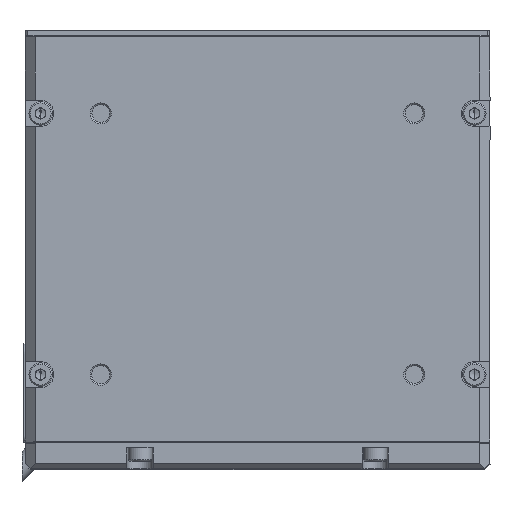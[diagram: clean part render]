
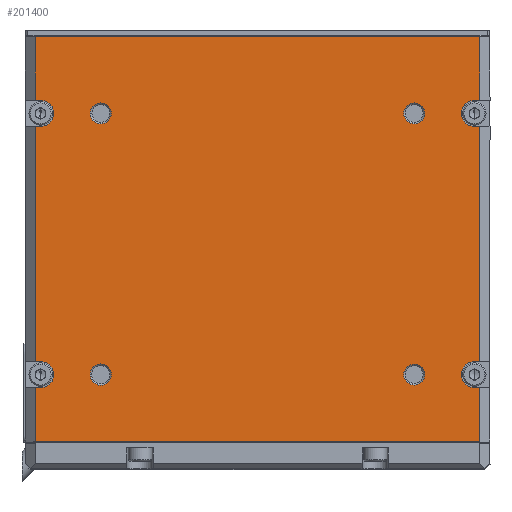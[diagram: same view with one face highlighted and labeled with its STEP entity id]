
A CAD part, top view. The second image highlights one B-rep face of the part: STEP entity #201400.
In plain terms, the highlighted planar face has unit normal (0, 0, 1).
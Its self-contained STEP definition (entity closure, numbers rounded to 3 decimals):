
#198270=CARTESIAN_POINT('',(76.747,43.15,93.5));
#198280=VERTEX_POINT('',#198270);
#198650=CARTESIAN_POINT('',(76.75,32.75,93.5));
#198660=VERTEX_POINT('',#198650);
#198690=CARTESIAN_POINT('',(76.75,43.15,93.5));
#198700=DIRECTION('',(0.,-1.,0.));
#198710=VECTOR('',#198700,1.);
#198720=LINE('',#198690,#198710);
#198730=EDGE_CURVE('',#198280,#198660,#198720,.T.);
#199050=CARTESIAN_POINT('',(75.75,32.75,93.5));
#199060=VERTEX_POINT('',#199050);
#199090=CARTESIAN_POINT('',(76.75,32.75,93.5));
#199100=DIRECTION('',(-1.,0.,0.));
#199110=VECTOR('',#199100,1.);
#199120=LINE('',#199090,#199110);
#199130=EDGE_CURVE('',#198660,#199060,#199120,.T.);
#199250=CARTESIAN_POINT('',(-4.25,-34.95,93.5));
#199260=DIRECTION('',(0.,0.,1.));
#199270=DIRECTION('',(0.,1.,0.));
#199280=AXIS2_PLACEMENT_3D('',#199250,#199260,#199270);
#199290=PLANE('',#199280);
#199300=ORIENTED_EDGE('',*,*,#198730,.F.);
#199310=ORIENTED_EDGE('',*,*,#199130,.F.);
#199320=CARTESIAN_POINT('',(75.75,30.25,93.5));
#199330=DIRECTION('',(-0.,-0.,-1.));
#199340=DIRECTION('',(0.,-1.,0.));
#199350=AXIS2_PLACEMENT_3D('',#199320,#199330,#199340);
#199360=CIRCLE('',#199350,2.5);
#199370=CARTESIAN_POINT('',(75.75,27.75,93.5));
#199380=VERTEX_POINT('',#199370);
#199390=EDGE_CURVE('',#199380,#199060,#199360,.T.);
#199400=ORIENTED_EDGE('',*,*,#199390,.T.);
#199410=CARTESIAN_POINT('',(75.75,27.75,93.5));
#199420=DIRECTION('',(1.,0.,0.));
#199430=VECTOR('',#199420,1.);
#199440=LINE('',#199410,#199430);
#199450=CARTESIAN_POINT('',(76.75,27.75,93.5));
#199460=VERTEX_POINT('',#199450);
#199470=EDGE_CURVE('',#199380,#199460,#199440,.T.);
#199480=ORIENTED_EDGE('',*,*,#199470,.F.);
#199490=CARTESIAN_POINT('',(76.75,27.75,93.5));
#199500=DIRECTION('',(0.,-1.,0.));
#199510=VECTOR('',#199500,1.);
#199520=LINE('',#199490,#199510);
#199530=CARTESIAN_POINT('',(76.75,-17.25,93.5));
#199540=VERTEX_POINT('',#199530);
#199550=EDGE_CURVE('',#199460,#199540,#199520,.T.);
#199560=ORIENTED_EDGE('',*,*,#199550,.F.);
#199570=CARTESIAN_POINT('',(76.75,-17.25,93.5));
#199580=DIRECTION('',(-1.,0.,0.));
#199590=VECTOR('',#199580,1.);
#199600=LINE('',#199570,#199590);
#199610=CARTESIAN_POINT('',(75.75,-17.25,93.5));
#199620=VERTEX_POINT('',#199610);
#199630=EDGE_CURVE('',#199540,#199620,#199600,.T.);
#199640=ORIENTED_EDGE('',*,*,#199630,.F.);
#199650=CARTESIAN_POINT('',(75.75,-19.75,93.5));
#199660=DIRECTION('',(-0.,-0.,-1.));
#199670=DIRECTION('',(0.,-1.,0.));
#199680=AXIS2_PLACEMENT_3D('',#199650,#199660,#199670);
#199690=CIRCLE('',#199680,2.5);
#199700=CARTESIAN_POINT('',(75.75,-22.25,93.5));
#199710=VERTEX_POINT('',#199700);
#199720=EDGE_CURVE('',#199710,#199620,#199690,.T.);
#199730=ORIENTED_EDGE('',*,*,#199720,.T.);
#199740=CARTESIAN_POINT('',(75.75,-22.25,93.5));
#199750=DIRECTION('',(1.,0.,0.));
#199760=VECTOR('',#199750,1.);
#199770=LINE('',#199740,#199760);
#199780=CARTESIAN_POINT('',(76.75,-22.25,93.5));
#199790=VERTEX_POINT('',#199780);
#199800=EDGE_CURVE('',#199710,#199790,#199770,.T.);
#199810=ORIENTED_EDGE('',*,*,#199800,.F.);
#199820=CARTESIAN_POINT('',(76.75,-22.25,93.5));
#199830=DIRECTION('',(0.,-1.,0.));
#199840=VECTOR('',#199830,1.);
#199850=LINE('',#199820,#199840);
#199860=CARTESIAN_POINT('',(76.75,-34.45,93.5));
#199870=VERTEX_POINT('',#199860);
#199880=EDGE_CURVE('',#199790,#199870,#199850,.T.);
#199890=ORIENTED_EDGE('',*,*,#199880,.F.);
#199900=CARTESIAN_POINT('',(76.75,-34.45,93.5));
#199910=DIRECTION('',(-1.,0.,0.));
#199920=VECTOR('',#199910,1.);
#199930=LINE('',#199900,#199920);
#199940=CARTESIAN_POINT('',(-8.25,-34.45,93.5));
#199950=VERTEX_POINT('',#199940);
#199960=EDGE_CURVE('',#199870,#199950,#199930,.T.);
#199970=ORIENTED_EDGE('',*,*,#199960,.F.);
#199980=CARTESIAN_POINT('',(-8.25,-34.45,93.5));
#199990=DIRECTION('',(0.,1.,0.));
#200000=VECTOR('',#199990,1.);
#200010=LINE('',#199980,#200000);
#200020=CARTESIAN_POINT('',(-8.25,-22.25,93.5));
#200030=VERTEX_POINT('',#200020);
#200040=EDGE_CURVE('',#199950,#200030,#200010,.T.);
#200050=ORIENTED_EDGE('',*,*,#200040,.F.);
#200060=CARTESIAN_POINT('',(-8.25,-22.25,93.5));
#200070=DIRECTION('',(1.,0.,0.));
#200080=VECTOR('',#200070,1.);
#200090=LINE('',#200060,#200080);
#200100=CARTESIAN_POINT('',(-7.25,-22.25,93.5));
#200110=VERTEX_POINT('',#200100);
#200120=EDGE_CURVE('',#200030,#200110,#200090,.T.);
#200130=ORIENTED_EDGE('',*,*,#200120,.F.);
#200140=CARTESIAN_POINT('',(-7.25,-19.75,93.5));
#200150=DIRECTION('',(0.,0.,-1.));
#200160=DIRECTION('',(0.,1.,0.));
#200170=AXIS2_PLACEMENT_3D('',#200140,#200150,#200160);
#200180=CIRCLE('',#200170,2.5);
#200190=CARTESIAN_POINT('',(-7.25,-17.25,93.5));
#200200=VERTEX_POINT('',#200190);
#200210=EDGE_CURVE('',#200200,#200110,#200180,.T.);
#200220=ORIENTED_EDGE('',*,*,#200210,.T.);
#200230=CARTESIAN_POINT('',(-7.25,-17.25,93.5));
#200240=DIRECTION('',(-1.,0.,0.));
#200250=VECTOR('',#200240,1.);
#200260=LINE('',#200230,#200250);
#200270=CARTESIAN_POINT('',(-8.25,-17.25,93.5));
#200280=VERTEX_POINT('',#200270);
#200290=EDGE_CURVE('',#200200,#200280,#200260,.T.);
#200300=ORIENTED_EDGE('',*,*,#200290,.F.);
#200310=CARTESIAN_POINT('',(-8.25,-17.25,93.5));
#200320=DIRECTION('',(0.,1.,0.));
#200330=VECTOR('',#200320,1.);
#200340=LINE('',#200310,#200330);
#200350=CARTESIAN_POINT('',(-8.25,27.75,93.5));
#200360=VERTEX_POINT('',#200350);
#200370=EDGE_CURVE('',#200280,#200360,#200340,.T.);
#200380=ORIENTED_EDGE('',*,*,#200370,.F.);
#200390=CARTESIAN_POINT('',(-8.25,27.75,93.5));
#200400=DIRECTION('',(1.,0.,0.));
#200410=VECTOR('',#200400,1.);
#200420=LINE('',#200390,#200410);
#200430=CARTESIAN_POINT('',(-7.25,27.75,93.5));
#200440=VERTEX_POINT('',#200430);
#200450=EDGE_CURVE('',#200360,#200440,#200420,.T.);
#200460=ORIENTED_EDGE('',*,*,#200450,.F.);
#200470=CARTESIAN_POINT('',(-7.25,30.25,93.5));
#200480=DIRECTION('',(0.,0.,-1.));
#200490=DIRECTION('',(0.,1.,0.));
#200500=AXIS2_PLACEMENT_3D('',#200470,#200480,#200490);
#200510=CIRCLE('',#200500,2.5);
#200520=CARTESIAN_POINT('',(-7.25,32.75,93.5));
#200530=VERTEX_POINT('',#200520);
#200540=EDGE_CURVE('',#200530,#200440,#200510,.T.);
#200550=ORIENTED_EDGE('',*,*,#200540,.T.);
#200560=CARTESIAN_POINT('',(-7.25,32.75,93.5));
#200570=DIRECTION('',(-1.,0.,0.));
#200580=VECTOR('',#200570,1.);
#200590=LINE('',#200560,#200580);
#200600=CARTESIAN_POINT('',(-8.25,32.75,93.5));
#200610=VERTEX_POINT('',#200600);
#200620=EDGE_CURVE('',#200530,#200610,#200590,.T.);
#200630=ORIENTED_EDGE('',*,*,#200620,.F.);
#200640=CARTESIAN_POINT('',(-8.25,32.75,93.5));
#200650=DIRECTION('',(0.,1.,0.));
#200660=VECTOR('',#200650,1.);
#200670=LINE('',#200640,#200660);
#200680=CARTESIAN_POINT('',(-8.25,43.151,
93.499));
#200690=VERTEX_POINT('',#200680);
#200700=EDGE_CURVE('',#200610,#200690,#200670,.T.);
#200710=ORIENTED_EDGE('',*,*,#200700,.F.);
#200720=CARTESIAN_POINT('',(76.75,43.15,93.5));
#200730=DIRECTION('',(-1.,0.,0.));
#200740=VECTOR('',#200730,1.);
#200750=LINE('',#200720,#200740);
#200760=EDGE_CURVE('',#198280,#200690,#200750,.T.);
#200770=ORIENTED_EDGE('',*,*,#200760,.T.);
#200780=EDGE_LOOP('',(#200770,#200710,#200630,#200550,#200460,#200380,
#200300,#200220,#200130,#200050,#199970,#199890,#199810,#199730,#199640,
#199560,#199480,#199400,#199310,#199300));
#200790=FACE_OUTER_BOUND('',#200780,.T.);
#200800=CARTESIAN_POINT('',(64.25,-19.75,93.5));
#200810=DIRECTION('',(-0.,0.,-1.));
#200820=DIRECTION('',(-1.,0.,0.));
#200830=AXIS2_PLACEMENT_3D('',#200800,#200810,#200820);
#200840=CIRCLE('',#200830,2.);
#200850=CARTESIAN_POINT('',(66.25,-19.75,93.5));
#200860=VERTEX_POINT('',#200850);
#200870=CARTESIAN_POINT('',(62.25,-19.75,93.5));
#200880=VERTEX_POINT('',#200870);
#200890=EDGE_CURVE('',#200860,#200880,#200840,.T.);
#200900=ORIENTED_EDGE('',*,*,#200890,.T.);
#200910=EDGE_CURVE('',#200880,#200860,#200840,.T.);
#200920=ORIENTED_EDGE('',*,*,#200910,.T.);
#200930=EDGE_LOOP('',(#200920,#200900));
#200940=FACE_BOUND('',#200930,.T.);
#200950=CARTESIAN_POINT('',(4.25,30.25,93.5));
#200960=DIRECTION('',(-0.,0.,-1.));
#200970=DIRECTION('',(-1.,0.,0.));
#200980=AXIS2_PLACEMENT_3D('',#200950,#200960,#200970);
#200990=CIRCLE('',#200980,2.);
#201000=CARTESIAN_POINT('',(6.25,30.25,93.5));
#201010=VERTEX_POINT('',#201000);
#201020=CARTESIAN_POINT('',(2.25,30.25,93.5));
#201030=VERTEX_POINT('',#201020);
#201040=EDGE_CURVE('',#201010,#201030,#200990,.T.);
#201050=ORIENTED_EDGE('',*,*,#201040,.T.);
#201060=EDGE_CURVE('',#201030,#201010,#200990,.T.);
#201070=ORIENTED_EDGE('',*,*,#201060,.T.);
#201080=EDGE_LOOP('',(#201070,#201050));
#201090=FACE_BOUND('',#201080,.T.);
#201100=CARTESIAN_POINT('',(64.25,30.25,93.5));
#201110=DIRECTION('',(-0.,0.,-1.));
#201120=DIRECTION('',(-1.,0.,0.));
#201130=AXIS2_PLACEMENT_3D('',#201100,#201110,#201120);
#201140=CIRCLE('',#201130,2.03);
#201150=CARTESIAN_POINT('',(62.22,30.25,93.5));
#201160=VERTEX_POINT('',#201150);
#201170=CARTESIAN_POINT('',(66.28,30.25,93.5));
#201180=VERTEX_POINT('',#201170);
#201190=EDGE_CURVE('',#201160,#201180,#201140,.T.);
#201200=ORIENTED_EDGE('',*,*,#201190,.T.);
#201210=EDGE_CURVE('',#201180,#201160,#201140,.T.);
#201220=ORIENTED_EDGE('',*,*,#201210,.T.);
#201230=EDGE_LOOP('',(#201220,#201200));
#201240=FACE_BOUND('',#201230,.T.);
#201250=CARTESIAN_POINT('',(4.25,-19.75,93.5));
#201260=DIRECTION('',(-0.,0.,-1.));
#201270=DIRECTION('',(-1.,0.,0.));
#201280=AXIS2_PLACEMENT_3D('',#201250,#201260,#201270);
#201290=CIRCLE('',#201280,2.);
#201300=CARTESIAN_POINT('',(2.25,-19.75,93.5));
#201310=VERTEX_POINT('',#201300);
#201320=CARTESIAN_POINT('',(6.25,-19.75,93.5));
#201330=VERTEX_POINT('',#201320);
#201340=EDGE_CURVE('',#201310,#201330,#201290,.T.);
#201350=ORIENTED_EDGE('',*,*,#201340,.T.);
#201360=EDGE_CURVE('',#201330,#201310,#201290,.T.);
#201370=ORIENTED_EDGE('',*,*,#201360,.T.);
#201380=EDGE_LOOP('',(#201370,#201350));
#201390=FACE_BOUND('',#201380,.T.);
#201400=ADVANCED_FACE('',(#200790,#200940,#201090,#201240,#201390),
#199290,.T.);
